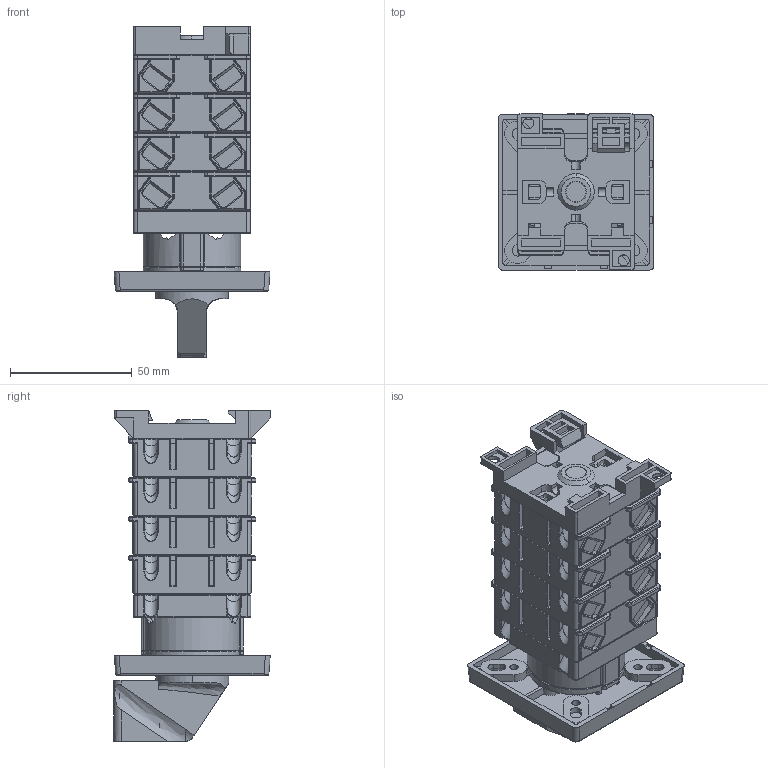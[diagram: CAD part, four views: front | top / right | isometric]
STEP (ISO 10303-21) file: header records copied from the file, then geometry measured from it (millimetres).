
FILE_DESCRIPTION (( 'STEP AP214' ), '1' );
FILE_NAME ('Ïåðåêëþ÷àòåëü 4G16,25-XXXX-OU-R112,R114,S24 4ê.STEP', '2022-11-28T11:37:31', ( '' ), ( '' ), 'SwSTEP 2.0', 'SolidWorks 2018', '' );
FILE_SCHEMA (( 'AUTOMOTIVE_DESIGN' ));
Length unit declared in the file: millimetre
Products named in the file (1): Ïåðåêëþ÷àòåëü 4G16,25-XXXX-OU-R112,R114,S24 4ê
Bounding box: 64 x 64.21 x 135.8 mm (x, y, z)
Volume: 217809.5 mm3; surface area: 107143.9 mm2
Topology: 15 solids, 47 shells, 4759 faces, 12530 edges, 7940 vertices
Faces by surface type: plane 2747, cylinder 1442, torus 242, cone 189, bspline 81, sphere 58
Entity records: 208394 total; most frequent: CARTESIAN_POINT 39704, ORIENTED_EDGE 24962, DIRECTION 23510, EDGE_CURVE 12481, VECTOR 8640, LINE 8640, VERTEX_POINT 7924, AXIS2_PLACEMENT_3D 7435
